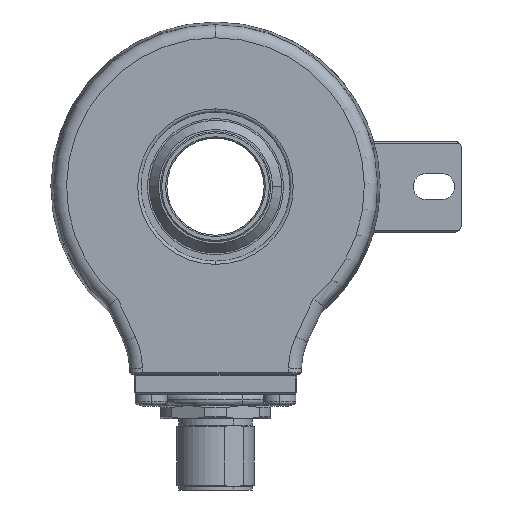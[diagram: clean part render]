
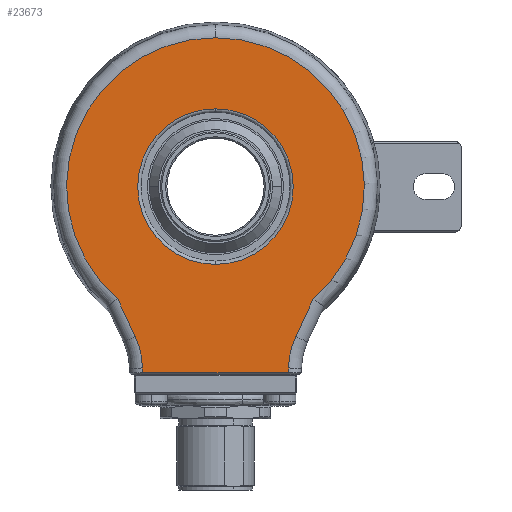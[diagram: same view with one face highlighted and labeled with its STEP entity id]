
A CAD part, left-side view. The second image highlights one B-rep face of the part: STEP entity #23673.
In plain terms, the highlighted planar face has unit normal (-1, 0, 0).
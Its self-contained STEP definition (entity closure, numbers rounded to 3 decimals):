
#386 = LINE ( 'NONE', #8209, #5634 ) ;
#798 = CIRCLE ( 'NONE', #14756, 22.972 ) ;
#1396 = DIRECTION ( 'NONE',  ( -1., 0., 0. ) ) ;
#1433 = CARTESIAN_POINT ( 'NONE',  ( -21., -14.953, -17.615 ) ) ;
#1662 = CIRCLE ( 'NONE', #21205, 12. ) ;
#1747 = EDGE_CURVE ( 'NONE', #6821, #12385, #8892, .T. ) ;
#2600 = ORIENTED_EDGE ( 'NONE', *, *, #23494, .T. ) ;
#2799 = VERTEX_POINT ( 'NONE', #5550 ) ;
#2872 = DIRECTION ( 'NONE',  ( 0., 0., 1. ) ) ;
#3065 = DIRECTION ( 'NONE',  ( -1., 0., 0. ) ) ;
#4044 = AXIS2_PLACEMENT_3D ( 'NONE', #11096, #24952, #13072 ) ;
#4221 = CARTESIAN_POINT ( 'NONE',  ( -21., 11.752, -0.205 ) ) ;
#4542 = CARTESIAN_POINT ( 'NONE',  ( -21., -11.752, -0.205 ) ) ;
#4927 = LINE ( 'NONE', #4542, #9530 ) ;
#5306 = VERTEX_POINT ( 'NONE', #11791 ) ;
#5453 = CARTESIAN_POINT ( 'NONE',  ( -21., 11.255, -28.695 ) ) ;
#5550 = CARTESIAN_POINT ( 'NONE',  ( -21., 15.091, -17.32 ) ) ;
#5634 = VECTOR ( 'NONE', #20000, 1000. ) ;
#5887 = EDGE_CURVE ( 'NONE', #12385, #19898, #798, .T. ) ;
#5897 = CARTESIAN_POINT ( 'NONE',  ( -21., 0., -12. ) ) ;
#6160 = ORIENTED_EDGE ( 'NONE', *, *, #12878, .T. ) ;
#6178 = DIRECTION ( 'NONE',  ( 0., -0.017, -1. ) ) ;
#6323 = DIRECTION ( 'NONE',  ( 0., -0.017, 1. ) ) ;
#6821 = VERTEX_POINT ( 'NONE', #23824 ) ;
#7467 = DIRECTION ( 'NONE',  ( 0., -0.423, 0.906 ) ) ;
#7475 = DIRECTION ( 'NONE',  ( 1., 0., 0. ) ) ;
#7561 = ORIENTED_EDGE ( 'NONE', *, *, #5887, .T. ) ;
#7897 = CARTESIAN_POINT ( 'NONE',  ( -21., 0., 12. ) ) ;
#8209 = CARTESIAN_POINT ( 'NONE',  ( -21., 12.39, -23.112 ) ) ;
#8633 = PLANE ( 'NONE',  #14874 ) ;
#8802 = CARTESIAN_POINT ( 'NONE',  ( -21., -11.268, -27.974 ) ) ;
#8892 = LINE ( 'NONE', #1433, #18842 ) ;
#9206 = LINE ( 'NONE', #14242, #24422 ) ;
#9530 = VECTOR ( 'NONE', #6323, 1000. ) ;
#10123 = CARTESIAN_POINT ( 'NONE',  ( -21., 0., 0. ) ) ;
#10214 = ORIENTED_EDGE ( 'NONE', *, *, #16996, .T. ) ;
#10373 = CARTESIAN_POINT ( 'NONE',  ( -21., -11.255, -28.695 ) ) ;
#11096 = CARTESIAN_POINT ( 'NONE',  ( -21., 23.266, -28.183 ) ) ;
#11160 = ORIENTED_EDGE ( 'NONE', *, *, #20097, .T. ) ;
#11219 = CARTESIAN_POINT ( 'NONE',  ( -21., -23.266, -28.183 ) ) ;
#11426 = VECTOR ( 'NONE', #6178, 1000. ) ;
#11658 = VERTEX_POINT ( 'NONE', #11762 ) ;
#11762 = CARTESIAN_POINT ( 'NONE',  ( -21., 11.268, -27.974 ) ) ;
#11791 = CARTESIAN_POINT ( 'NONE',  ( -21., 12.39, -23.112 ) ) ;
#12113 = DIRECTION ( 'NONE',  ( 0., 0., 1. ) ) ;
#12385 = VERTEX_POINT ( 'NONE', #15302 ) ;
#12652 = AXIS2_PLACEMENT_3D ( 'NONE', #11219, #25071, #13189 ) ;
#12878 = EDGE_CURVE ( 'NONE', #19525, #24866, #1662, .T. ) ;
#12997 = AXIS2_PLACEMENT_3D ( 'NONE', #14899, #3065, #16938 ) ;
#13036 = FACE_BOUND ( 'NONE', #18243, .T. ) ;
#13072 = DIRECTION ( 'NONE',  ( 0., 0., 1. ) ) ;
#13189 = DIRECTION ( 'NONE',  ( 0., 0., 1. ) ) ;
#13219 = CARTESIAN_POINT ( 'NONE',  ( -21., 0., 0. ) ) ;
#13730 = CIRCLE ( 'NONE', #12652, 12. ) ;
#14242 = CARTESIAN_POINT ( 'NONE',  ( -21., -11.25, -28.695 ) ) ;
#14711 = DIRECTION ( 'NONE',  ( 1., 0., 0. ) ) ;
#14756 = AXIS2_PLACEMENT_3D ( 'NONE', #13219, #1396, #15235 ) ;
#14874 = AXIS2_PLACEMENT_3D ( 'NONE', #16643, #14711, #2872 ) ;
#14899 = CARTESIAN_POINT ( 'NONE',  ( -21., 0., 0. ) ) ;
#15235 = DIRECTION ( 'NONE',  ( 0., 0., 1. ) ) ;
#15276 = ORIENTED_EDGE ( 'NONE', *, *, #22488, .T. ) ;
#15302 = CARTESIAN_POINT ( 'NONE',  ( -21., -15.091, -17.32 ) ) ;
#15691 = CIRCLE ( 'NONE', #19293, 12. ) ;
#15927 = VERTEX_POINT ( 'NONE', #8802 ) ;
#16273 = DIRECTION ( 'NONE',  ( 0., -1., 0. ) ) ;
#16332 = EDGE_CURVE ( 'NONE', #11658, #19017, #16725, .T. ) ;
#16643 = CARTESIAN_POINT ( 'NONE',  ( -21., 0., 0. ) ) ;
#16725 = LINE ( 'NONE', #4221, #11426 ) ;
#16938 = DIRECTION ( 'NONE',  ( 0., 0., 1. ) ) ;
#16996 = EDGE_CURVE ( 'NONE', #21348, #15927, #4927, .T. ) ;
#17011 = ORIENTED_EDGE ( 'NONE', *, *, #21946, .T. ) ;
#17063 = EDGE_LOOP ( 'NONE', ( #22814, #24288, #10214, #17011, #24977, #7561, #15276, #2600, #17313 ) ) ;
#17116 = FACE_OUTER_BOUND ( 'NONE', #17063, .T. ) ;
#17280 = CARTESIAN_POINT ( 'NONE',  ( -21., 0., 22.972 ) ) ;
#17313 = ORIENTED_EDGE ( 'NONE', *, *, #21020, .T. ) ;
#18243 = EDGE_LOOP ( 'NONE', ( #6160, #11160 ) ) ;
#18842 = VECTOR ( 'NONE', #7467, 1000. ) ;
#19017 = VERTEX_POINT ( 'NONE', #5453 ) ;
#19175 = EDGE_CURVE ( 'NONE', #19017, #21348, #9206, .T. ) ;
#19293 = AXIS2_PLACEMENT_3D ( 'NONE', #10123, #24013, #12113 ) ;
#19360 = CARTESIAN_POINT ( 'NONE',  ( -21., 0., 0. ) ) ;
#19525 = VERTEX_POINT ( 'NONE', #7897 ) ;
#19898 = VERTEX_POINT ( 'NONE', #17280 ) ;
#19982 = CIRCLE ( 'NONE', #4044, 12. ) ;
#20000 = DIRECTION ( 'NONE',  ( 0., -0.423, -0.906 ) ) ;
#20097 = EDGE_CURVE ( 'NONE', #24866, #19525, #15691, .T. ) ;
#20867 = CIRCLE ( 'NONE', #12997, 22.972 ) ;
#21020 = EDGE_CURVE ( 'NONE', #5306, #11658, #19982, .T. ) ;
#21205 = AXIS2_PLACEMENT_3D ( 'NONE', #19360, #7475, #21338 ) ;
#21338 = DIRECTION ( 'NONE',  ( 0., 0., 1. ) ) ;
#21348 = VERTEX_POINT ( 'NONE', #10373 ) ;
#21946 = EDGE_CURVE ( 'NONE', #15927, #6821, #13730, .T. ) ;
#22488 = EDGE_CURVE ( 'NONE', #19898, #2799, #20867, .T. ) ;
#22814 = ORIENTED_EDGE ( 'NONE', *, *, #16332, .T. ) ;
#23494 = EDGE_CURVE ( 'NONE', #2799, #5306, #386, .T. ) ;
#23673 = ADVANCED_FACE ( 'NONE', ( #13036, #17116 ), #8633, .F. ) ;
#23824 = CARTESIAN_POINT ( 'NONE',  ( -21., -12.39, -23.112 ) ) ;
#24013 = DIRECTION ( 'NONE',  ( 1., 0., 0. ) ) ;
#24288 = ORIENTED_EDGE ( 'NONE', *, *, #19175, .T. ) ;
#24422 = VECTOR ( 'NONE', #16273, 1000. ) ;
#24866 = VERTEX_POINT ( 'NONE', #5897 ) ;
#24952 = DIRECTION ( 'NONE',  ( 1., 0., 0. ) ) ;
#24977 = ORIENTED_EDGE ( 'NONE', *, *, #1747, .T. ) ;
#25071 = DIRECTION ( 'NONE',  ( 1., 0., 0. ) ) ;
